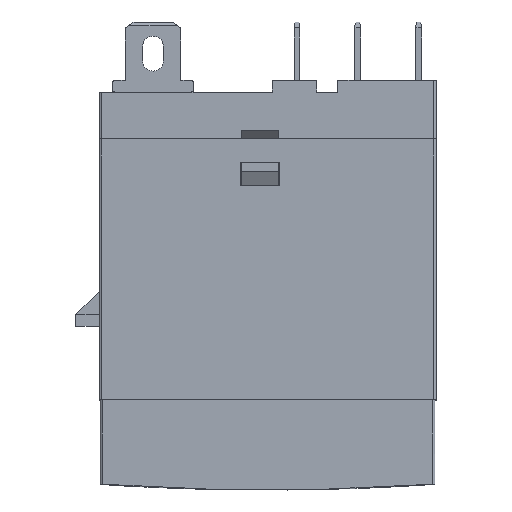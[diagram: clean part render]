
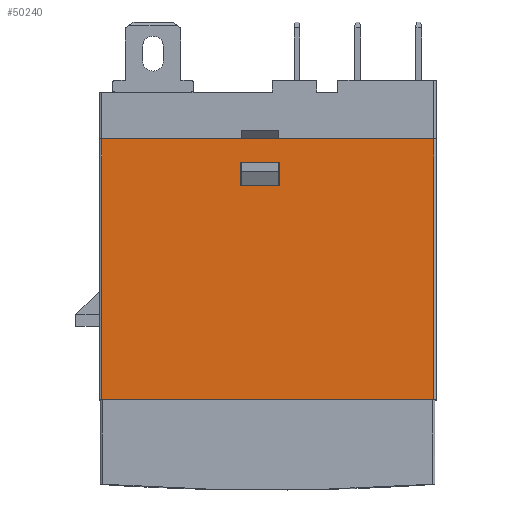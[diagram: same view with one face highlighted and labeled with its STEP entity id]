
A CAD part, top view. The second image highlights one B-rep face of the part: STEP entity #50240.
In plain terms, the highlighted planar face has unit normal (0, 0, 1) as drawn and (0, 0, -1) by its records, which use the part's own axes.
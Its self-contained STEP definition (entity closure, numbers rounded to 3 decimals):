
#2116 = VECTOR ( 'NONE', #34663, 1000. ) ;
#2913 = LINE ( 'NONE', #16663, #42284 ) ;
#4645 = ORIENTED_EDGE ( 'NONE', *, *, #56305, .F. ) ;
#5757 = VERTEX_POINT ( 'NONE', #38966 ) ;
#6382 = DIRECTION ( 'NONE',  ( 0., 1., 0. ) ) ;
#6572 = VECTOR ( 'NONE', #49903, 1000. ) ;
#7012 = LINE ( 'NONE', #7837, #47998 ) ;
#7013 = EDGE_CURVE ( 'NONE', #32328, #51574, #49151, .T. ) ;
#7487 = VERTEX_POINT ( 'NONE', #62366 ) ;
#7575 = CARTESIAN_POINT ( 'NONE',  ( -14.2, 0., -6.35 ) ) ;
#7837 = CARTESIAN_POINT ( 'NONE',  ( 14.4, 22.3, -6.35 ) ) ;
#8199 = LINE ( 'NONE', #14007, #6572 ) ;
#8805 = EDGE_LOOP ( 'NONE', ( #4645, #50080, #10860, #62331 ) ) ;
#10860 = ORIENTED_EDGE ( 'NONE', *, *, #7013, .T. ) ;
#11430 = VECTOR ( 'NONE', #48615, 1000. ) ;
#11787 = PLANE ( 'NONE',  #23892 ) ;
#12222 = ORIENTED_EDGE ( 'NONE', *, *, #15074, .F. ) ;
#12542 = FACE_BOUND ( 'NONE', #47729, .T. ) ;
#12711 = CARTESIAN_POINT ( 'NONE',  ( 0., 0., -6.35 ) ) ;
#12773 = DIRECTION ( 'NONE',  ( -1., 0., 0. ) ) ;
#14007 = CARTESIAN_POINT ( 'NONE',  ( 14.2, 22.3, -6.35 ) ) ;
#14160 = FACE_OUTER_BOUND ( 'NONE', #8805, .T. ) ;
#14386 = EDGE_CURVE ( 'NONE', #64009, #35977, #40055, .T. ) ;
#15074 = EDGE_CURVE ( 'NONE', #35977, #7487, #25451, .T. ) ;
#15800 = LINE ( 'NONE', #49945, #2116 ) ;
#16603 = DIRECTION ( 'NONE',  ( -1., 0., 0. ) ) ;
#16663 = CARTESIAN_POINT ( 'NONE',  ( -2.3, 4., -6.35 ) ) ;
#17989 = EDGE_CURVE ( 'NONE', #47337, #32328, #8199, .T. ) ;
#20890 = CARTESIAN_POINT ( 'NONE',  ( 1., 4., -6.35 ) ) ;
#21755 = ORIENTED_EDGE ( 'NONE', *, *, #14386, .F. ) ;
#22031 = DIRECTION ( 'NONE',  ( 1., 0., 0. ) ) ;
#23812 = VECTOR ( 'NONE', #42557, 1000. ) ;
#23892 = AXIS2_PLACEMENT_3D ( 'NONE', #47698, #52851, #22031 ) ;
#24730 = EDGE_CURVE ( 'NONE', #51574, #5757, #60305, .T. ) ;
#25451 = LINE ( 'NONE', #37398, #23812 ) ;
#25994 = ORIENTED_EDGE ( 'NONE', *, *, #48698, .F. ) ;
#29782 = CARTESIAN_POINT ( 'NONE',  ( 14.2, 0., -6.35 ) ) ;
#30784 = CARTESIAN_POINT ( 'NONE',  ( 14.2, 22.3, -6.35 ) ) ;
#32148 = DIRECTION ( 'NONE',  ( 1., 0., 0. ) ) ;
#32328 = VERTEX_POINT ( 'NONE', #29782 ) ;
#34663 = DIRECTION ( 'NONE',  ( 0., -1., 0. ) ) ;
#35977 = VERTEX_POINT ( 'NONE', #45038 ) ;
#37398 = CARTESIAN_POINT ( 'NONE',  ( -2.3, 4., -6.35 ) ) ;
#38412 = VECTOR ( 'NONE', #16603, 1000. ) ;
#38966 = CARTESIAN_POINT ( 'NONE',  ( -14.2, 22.3, -6.35 ) ) ;
#39308 = CARTESIAN_POINT ( 'NONE',  ( 1., 2., -6.35 ) ) ;
#40055 = LINE ( 'NONE', #42214, #38412 ) ;
#42214 = CARTESIAN_POINT ( 'NONE',  ( 1., 2., -6.35 ) ) ;
#42284 = VECTOR ( 'NONE', #32148, 1000. ) ;
#42307 = CARTESIAN_POINT ( 'NONE',  ( -14.2, 22.3, -6.35 ) ) ;
#42557 = DIRECTION ( 'NONE',  ( 0., 1., 0. ) ) ;
#44797 = VERTEX_POINT ( 'NONE', #20890 ) ;
#44995 = VECTOR ( 'NONE', #6382, 1000. ) ;
#45038 = CARTESIAN_POINT ( 'NONE',  ( -2.3, 2., -6.35 ) ) ;
#47337 = VERTEX_POINT ( 'NONE', #30784 ) ;
#47698 = CARTESIAN_POINT ( 'NONE',  ( 0., 22.3, -6.35 ) ) ;
#47729 = EDGE_LOOP ( 'NONE', ( #60106, #25994, #12222, #21755 ) ) ;
#47998 = VECTOR ( 'NONE', #12773, 1000. ) ;
#48489 = EDGE_CURVE ( 'NONE', #44797, #64009, #15800, .T. ) ;
#48615 = DIRECTION ( 'NONE',  ( -1., 0., 0. ) ) ;
#48698 = EDGE_CURVE ( 'NONE', #7487, #44797, #2913, .T. ) ;
#49151 = LINE ( 'NONE', #12711, #11430 ) ;
#49903 = DIRECTION ( 'NONE',  ( 0., -1., 0. ) ) ;
#49945 = CARTESIAN_POINT ( 'NONE',  ( 1., 4., -6.35 ) ) ;
#50080 = ORIENTED_EDGE ( 'NONE', *, *, #17989, .T. ) ;
#50240 = ADVANCED_FACE ( 'NONE', ( #12542, #14160 ), #11787, .F. ) ;
#51574 = VERTEX_POINT ( 'NONE', #7575 ) ;
#52851 = DIRECTION ( 'NONE',  ( 0., 0., 1. ) ) ;
#56305 = EDGE_CURVE ( 'NONE', #47337, #5757, #7012, .T. ) ;
#60106 = ORIENTED_EDGE ( 'NONE', *, *, #48489, .F. ) ;
#60305 = LINE ( 'NONE', #42307, #44995 ) ;
#62331 = ORIENTED_EDGE ( 'NONE', *, *, #24730, .T. ) ;
#62366 = CARTESIAN_POINT ( 'NONE',  ( -2.3, 4., -6.35 ) ) ;
#64009 = VERTEX_POINT ( 'NONE', #39308 ) ;
